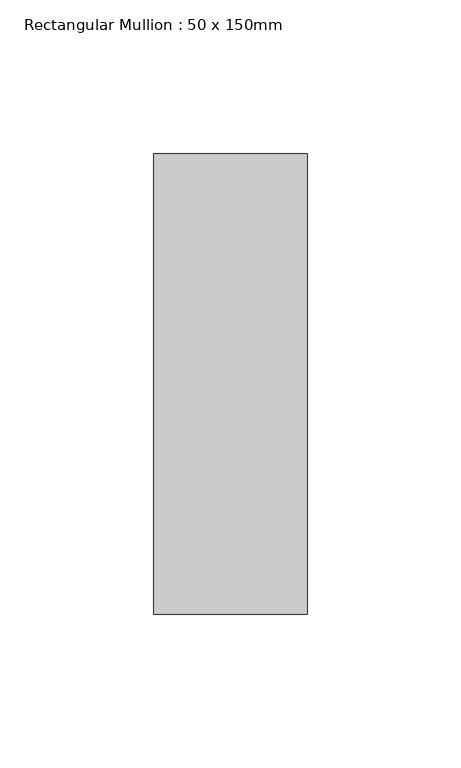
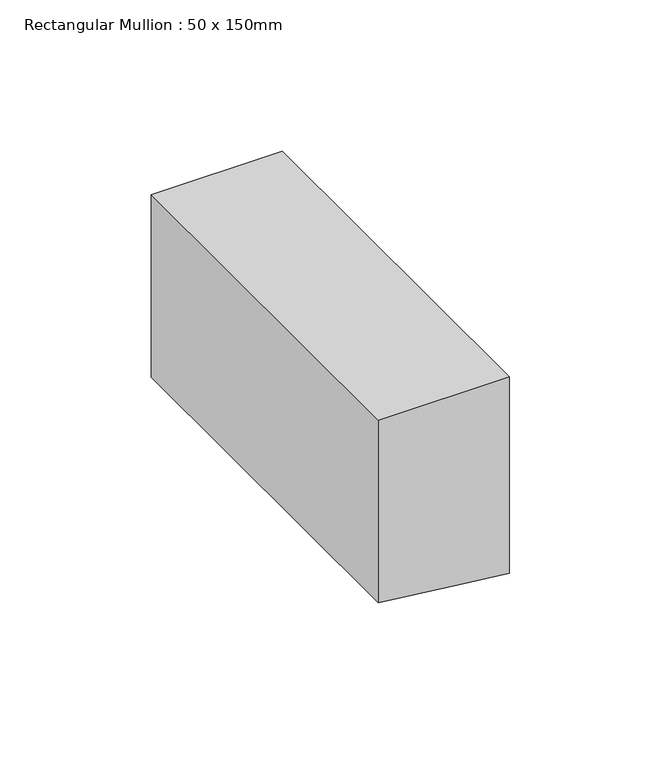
"""IFC4 building model written with IfcOpenShell, lengths in millimetres: member geometry, Rectangular Mullion : 50 x 150mm."""

from ifc_helpers import new_model, si_unit, frame, origin, place, context, project, spatial, polyline, outline, extrude, source, transform, mapped, element, save


def rectangular_mullion_50_x_150mm_15386238(model_context):
    return source(origin(), model_context, "Body", "SweptSolid", [
        extrude(outline(polyline([(0.0, 25.0), (0.0, -25.0), (-73.5741023, -25.0), (-77.0542615, 5.6423937), (-79.2527697, 25.0), (0.0, 25.0)])), frame((0.0, -75.0, 0.0), z_axis=(0.0, 1.0, 0.0), x_axis=(0.0, 0.0, 1.0)), (0.0, 0.0, 1.0), 150.0),
    ])


if __name__ == "__main__":
    model = new_model("IFC4")
    model_context = context("Model", 3, world=origin())
    ifc_project = project(units=[si_unit("LENGTHUNIT", "METRE", prefix="MILLI")], contexts=[model_context])
    site = spatial("IfcSite", under=ifc_project)
    building = spatial("IfcBuilding", under=site)
    placement = place(None, origin())
    rectangular_mullion_50_x_150mm_shape = rectangular_mullion_50_x_150mm_15386238(model_context)
    element("IfcMember", 1, ObjectType="Rectangular Mullion : 50 x 150mm", at=placement, inside=building, context=model_context, shape_type="MappedRepresentation", body=[
        mapped(rectangular_mullion_50_x_150mm_shape, transform((0.0, 0.0, 0.0), x_axis=(1.0, 0.0, 0.0), y_axis=(0.0, 1.0, 0.0), z_axis=(0.0, 0.0, 1.0))),
    ])
    save(model, "model.ifc")
